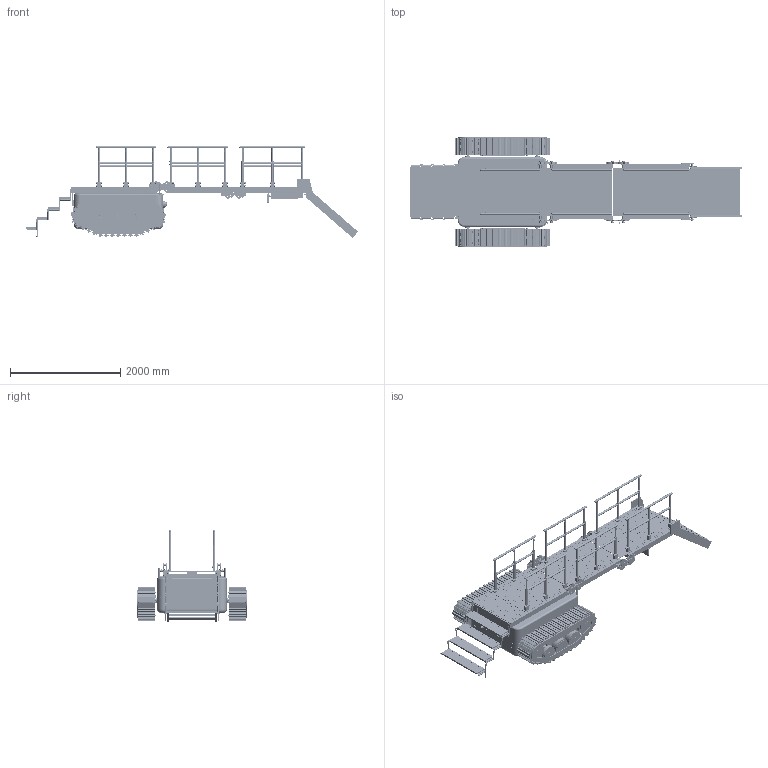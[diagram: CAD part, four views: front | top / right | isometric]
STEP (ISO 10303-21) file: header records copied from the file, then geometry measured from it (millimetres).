
FILE_DESCRIPTION(('Open CASCADE Model'),'2;1');
FILE_NAME('Open CASCADE Shape Model','2026-11-24T20:13:37',('Author'),( 'Open CASCADE'),'Open CASCADE STEP processor 7.9','Open CASCADE 7.9' ,'Unknown');
FILE_SCHEMA(('AUTOMOTIVE_DESIGN { 1 0 10303 214 1 1 1 1 }'));
Length unit declared in the file: centimetre
Products named in the file (676): AKORA_C10_RAILINGS_OPEN; 01_MAIN_BODY; BODY_LOWER; BODY_LOWER_TUB; BODY_JOINT_FLANGE_INNER; BODY_UPPER; BODY_UPPER_TUB; BODY_JOINT_BEAD; COVER_GASKET; COVER_GASKET_EPDM_10x8; PEDESTAL_GROMMET_600_L; PEDESTAL_GROMMET_600_R; PEDESTAL_GROMMET_1380_L; PEDESTAL_GROMMET_1380_R; SERVICE_PANEL_REAR_GASKET; COVER_INTERLOCK; COVER_SEAT_RING_FEMALE; COVER_LOCKS; COVER_QUARTER_TURN_STUD_01; COVER_RECEPTACLE_01; COVER_QUARTER_TURN_STUD_02; COVER_RECEPTACLE_02; COVER_QUARTER_TURN_STUD_03; COVER_RECEPTACLE_03; COVER_QUARTER_TURN_STUD_04; COVER_RECEPTACLE_04; COVER_QUARTER_TURN_STUD_05; COVER_RECEPTACLE_05; COVER_QUARTER_TURN_STUD_06; COVER_RECEPTACLE_06; COVER_QUARTER_TURN_STUD_07; COVER_RECEPTACLE_07; COVER_QUARTER_TURN_STUD_08; COVER_RECEPTACLE_08; COVER_QUARTER_TURN_STUD_09; COVER_RECEPTACLE_09; COVER_QUARTER_TURN_STUD_10; COVER_RECEPTACLE_10; INTERNAL_FRAME; FRAME_RAIL_L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
Assembly tree (743 placements, depth 5):
  AKORA_C10_RAILINGS_OPEN
    01_MAIN_BODY
      BODY_LOWER
        BODY_LOWER_TUB
        BODY_JOINT_FLANGE_INNER
      BODY_UPPER
        BODY_UPPER_TUB
        BODY_JOINT_BEAD
      COVER_GASKET
        COVER_GASKET_EPDM_10x8
        PEDESTAL_GROMMET_600_L
        PEDESTAL_GROMMET_600_R
        PEDESTAL_GROMMET_1380_L
        PEDESTAL_GROMMET_1380_R
        SERVICE_PANEL_REAR_GASKET
      COVER_INTERLOCK
        COVER_SEAT_RING_FEMALE
      COVER_LOCKS
        COVER_QUARTER_TURN_STUD_01
        COVER_RECEPTACLE_01
        COVER_QUARTER_TURN_STUD_02
        COVER_RECEPTACLE_02
        COVER_QUARTER_TURN_STUD_03
        COVER_RECEPTACLE_03
        COVER_QUARTER_TURN_STUD_04
        COVER_RECEPTACLE_04
        COVER_QUARTER_TURN_STUD_05
        COVER_RECEPTACLE_05
        COVER_QUARTER_TURN_STUD_06
        COVER_RECEPTACLE_06
        COVER_QUARTER_TURN_STUD_07
        COVER_RECEPTACLE_07
        COVER_QUARTER_TURN_STUD_08
        COVER_RECEPTACLE_08
        COVER_QUARTER_TURN_STUD_09
        COVER_RECEPTACLE_09
        COVER_QUARTER_TURN_STUD_10
        COVER_RECEPTACLE_10
      INTERNAL_FRAME
        FRAME_RAIL_L
        FRAME_RAIL_R
        FRAME_CROSS_1
        FRAME_CROSS_2
        FRAME_CROSS_3
        FRAME_CROSS_4
        FRAME_CROSS_5
        TRACK_MOTOR_PLATE_L
        TRACK_MOTOR_PLATE_R
      MOUNTING_BRACKETS
        FRAME_WALL_BRACKET_L_400
        FRAME_WALL_BRACKET_L_1300
        FRAME_WALL_BRACKET_R_400
        FRAME_WALL_BRACKET_R_1300
        P1_PEDESTAL_600_L
        P1_PEDESTAL_600_R
        P1_PEDESTAL_1380_L
        P1_PEDESTAL_1380_R
        REAR_LANDING_BRACKET_L
        REAR_LANDING_BRACKET_R
      SERVICE_PANELS
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Bounding box: 6027.52 x 1994 x 1666.88 mm (x, y, z)
Volume: 628183892.7 mm3; surface area: 87864523.7 mm2
Topology: 1494 solids, 1498 shells, 16526 faces, 39817 edges, 26536 vertices
Faces by surface type: plane 14101, cylinder 2385, sphere 22, torus 16, revolution 2
Full cylindrical faces by diameter (mm): 8 x18, 9 x20, 9.2 x10, 10 x150, 10.5 x4, 12 x34, 13 x4, 14 x4, 16 x36, 17 x8, 18 x4, 20 x15, 22 x12, 24 x39, 25 x16, 28 x34, 30 x64, 30.6 x40, 32 x22, 34 x36, 36 x4, 37 x54, 40 x96, 41 x8, 42 x54, 44 x11, 48 x24, 56 x2, 60 x5, 62 x4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
Entity records: 931551 total; most frequent: CARTESIAN_POINT 190398, DIRECTION 134825, LINE 95116, VECTOR 95116, ORIENTED_EDGE 69780, PCURVE 69764, DEFINITIONAL_REPRESENTATION 69764, EDGE_CURVE 34882
